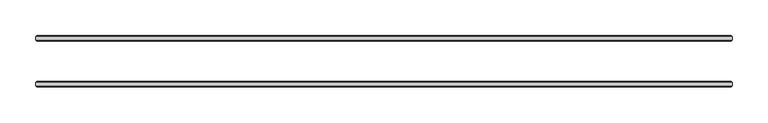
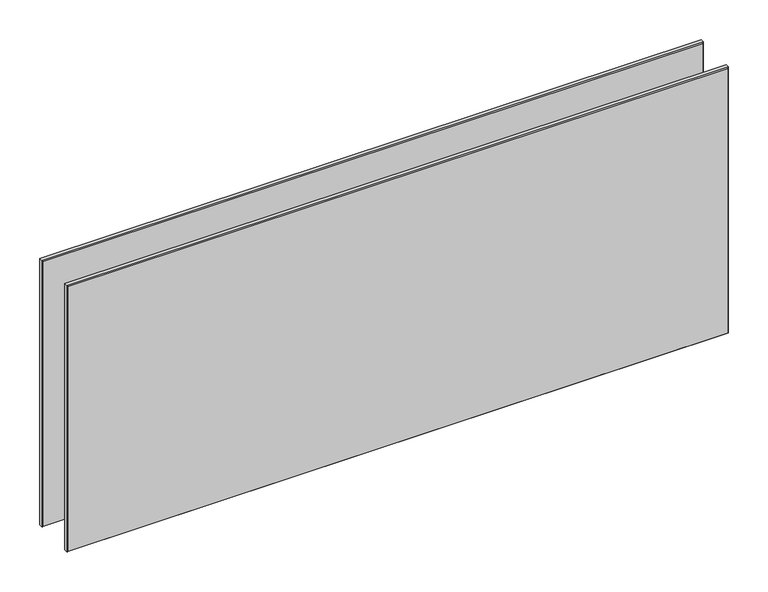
"""IFC4 building model written with IfcOpenShell, lengths in millimetres: plate geometry, 3-AMG-2-Панель двойной витраж 8, 10 : Смещение 32 Толщина 8mm."""

from ifc_helpers import new_model, si_unit, origin, place, context, project, spatial, faceted_brep, source, transform, mapped, element, save


def plate_b61ac6b2(model_context):
    return source(origin(), model_context, "Body", "Brep", [
        faceted_brep([(484.2182676, -34.4961653, 407.8623438), (484.2182676, -29.5038347, 407.8623438), (-489.2182676, -29.5038347, 407.8623438), (-489.2182676, -34.4961653, 407.8623438), (484.2182676, -29.5038347, -7.0), (484.2182676, -34.4961653, -7.0), (-489.2182676, -34.4961653, -7.0), (-489.2182676, -29.5038347, -7.0), (-487.7144328, -28.0, 406.3585091), (482.7144328, -28.0, 406.3585091), (482.7144328, -28.0, -5.5039422), (-487.7144328, -28.0, -5.5039422), (482.7144328, -36.0, 406.3585091), (-487.7144328, -36.0, 406.3585091), (-487.7144328, -36.0, -5.4961653), (482.7144328, -36.0, -5.4961653)], [[[0, 1, 2, 3]], [[4, 5, 6, 7]], [[8, 9, 10, 11]], [[3, 2, 7, 6]], [[12, 13, 14, 15]], [[1, 0, 5, 4]], [[1, 4, 10, 9]], [[5, 0, 12, 15]], [[0, 3, 13, 12]], [[2, 1, 9, 8]], [[7, 2, 8, 11]], [[3, 6, 14, 13]], [[6, 5, 15, 14]], [[4, 7, 11, 10]]]),
        faceted_brep([(484.2182676, 29.5038347, 407.8623438), (484.2182676, 34.4961653, 407.8623438), (-489.2182676, 34.4961653, 407.8623438), (-489.2182676, 29.5038347, 407.8623438), (484.2182676, 34.4961653, -7.0), (484.2182676, 29.5038347, -7.0), (-489.2182676, 29.5038347, -7.0), (-489.2182676, 34.4961653, -7.0), (-487.7144328, 36.0, 406.3585091), (482.7144328, 36.0, 406.3585091), (482.7144328, 36.0, -5.5039422), (-487.7144328, 36.0, -5.5039422), (482.7144328, 28.0, 406.3585091), (-487.7144328, 28.0, 406.3585091), (-487.7144328, 28.0, -5.4961653), (482.7144328, 28.0, -5.4961653)], [[[0, 1, 2, 3]], [[4, 5, 6, 7]], [[8, 9, 10, 11]], [[3, 2, 7, 6]], [[12, 13, 14, 15]], [[1, 0, 5, 4]], [[1, 4, 10, 9]], [[5, 0, 12, 15]], [[7, 2, 8, 11]], [[3, 6, 14, 13]], [[0, 3, 13, 12]], [[2, 1, 9, 8]], [[6, 5, 15, 14]], [[4, 7, 11, 10]]]),
    ])


if __name__ == "__main__":
    model = new_model("IFC4")
    model_context = context("Model", 3, world=origin())
    ifc_project = project(units=[si_unit("LENGTHUNIT", "METRE", prefix="MILLI")], contexts=[model_context])
    site = spatial("IfcSite", under=ifc_project)
    building = spatial("IfcBuilding", under=site)
    placement = place(None, origin())
    plate_shape = plate_b61ac6b2(model_context)
    element("IfcPlate", 1, ObjectType="3-AMG-2-Панель двойной витраж 8, 10 : Смещение 32 Толщина 8mm", at=placement, inside=building, context=model_context, shape_type="MappedRepresentation", body=[
        mapped(plate_shape, transform((0.0, 0.0, 0.0), x_axis=(1.0, 0.0, 0.0), y_axis=(0.0, 1.0, 0.0), z_axis=(0.0, 0.0, 1.0))),
    ])
    save(model, "model.ifc")
